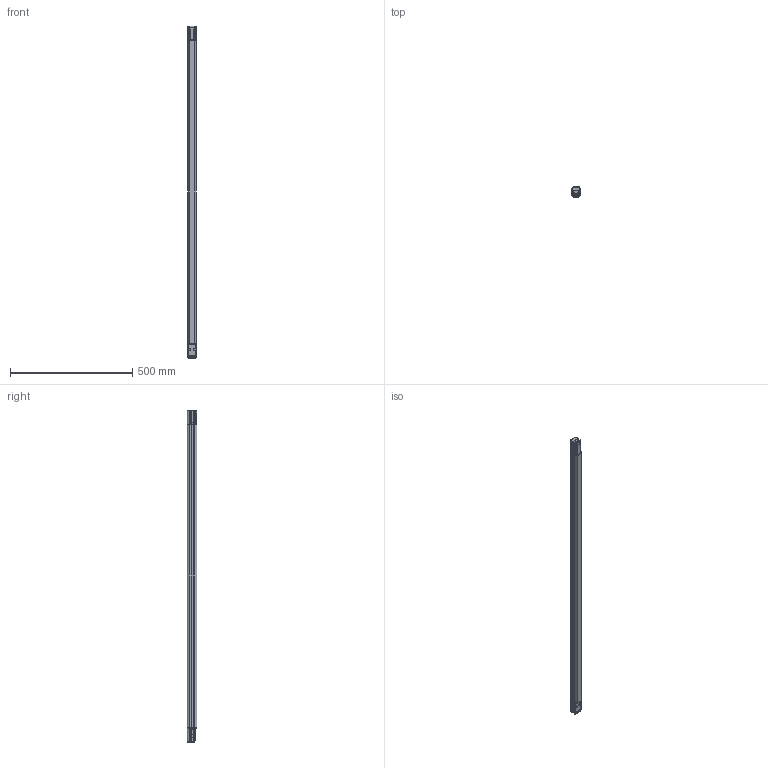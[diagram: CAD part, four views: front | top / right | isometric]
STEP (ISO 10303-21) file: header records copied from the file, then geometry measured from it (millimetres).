
FILE_DESCRIPTION(/* description */ (''),/* implementation_level */ '2;1');
FILE_NAME(/* name */ 'SH4 - 1350 mm DSD Barriera senza Smart Plug.stp',/* time_stamp */ '2022-12-02T18:32:40+01:00',/* author */ (''),/* organization */ (''),/* preprocessor_version */ 'ST-DEVELOPER v16.701',/* originating_system */ 'SIEMENS PLM Software NX 1946',/* authorisation */ '');
FILE_SCHEMA (('AP203_CONFIGURATION_CONTROLLED_3D_DESIGN_OF_MECHANICAL_PARTS_AND_ASSEMBLIES_MIM_LF { 1 0 10303 403 2 1 2}'));
Length unit declared in the file: millimetre
Products named in the file (1): MRos63D4F2E59x0m
Bounding box: 35.08 x 40 x 1359 mm (x, y, z)
Volume: 1593920 mm3; surface area: 315390.6 mm2
Topology: 6 solids, 11 shells, 891 faces, 2428 edges, 1549 vertices
Faces by surface type: plane 363, cylinder 315, bspline 92, cone 55, extrusion 24, sphere 22, torus 20
Full cylindrical faces by diameter (mm): 2.013 x4, 2.2 x4, 3 x4, 4.37 x4, 5 x8
Entity records: 34734 total; most frequent: CARTESIAN_POINT 13104, ORIENTED_EDGE 4576, DIRECTION 3865, EDGE_CURVE 2288, VERTEX_POINT 1515, AXIS2_PLACEMENT_3D 1345, VECTOR 1175, LINE 1151
